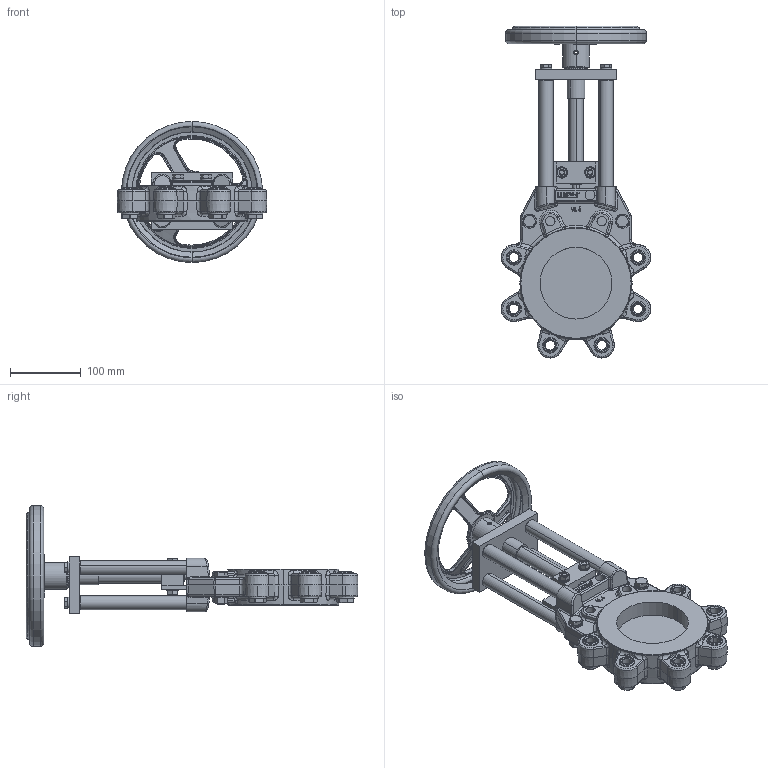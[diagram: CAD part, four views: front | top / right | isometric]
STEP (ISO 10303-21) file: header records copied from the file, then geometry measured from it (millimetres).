
FILE_DESCRIPTION (( 'STEP AP214' ), '1' );
FILE_NAME ('VLA DN 0100.STEP', '2022-09-20T06:56:37', ( '' ), ( '' ), 'SwSTEP 2.0', 'SolidWorks 2021', '' );
FILE_SCHEMA (( 'AUTOMOTIVE_DESIGN' ));
Length unit declared in the file: millimetre
Products named in the file (1): VLA DN 0100
Bounding box: 212 x 470.5 x 200 mm (x, y, z)
Volume: 1773310.2 mm3; surface area: 364285.3 mm2
Topology: 1 solids, 26 shells, 1731 faces, 4116 edges, 2441 vertices
Faces by surface type: plane 571, cylinder 477, cone 287, bspline 240, torus 146, sphere 10
Entity records: 80183 total; most frequent: CARTESIAN_POINT 22870, ORIENTED_EDGE 8092, DIRECTION 7949, EDGE_CURVE 4046, AXIS2_PLACEMENT_3D 3199, VERTEX_POINT 2441, EDGE_LOOP 1871, UNCERTAINTY_MEASURE_WITH_UNIT 1734
